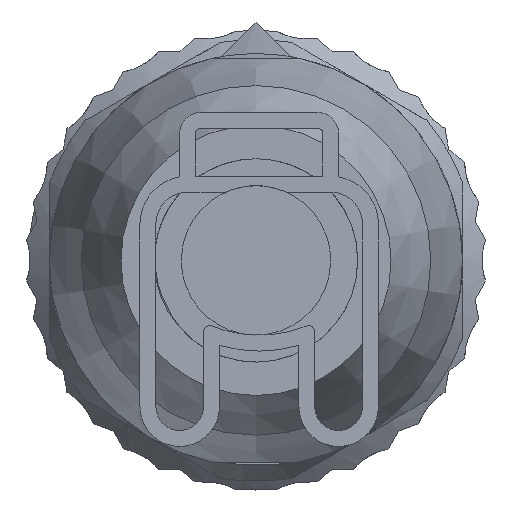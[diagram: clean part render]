
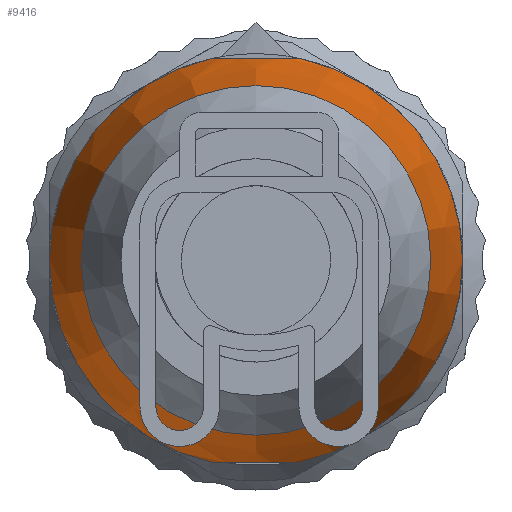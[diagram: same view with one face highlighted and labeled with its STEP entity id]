
A CAD part, front view. The second image highlights one B-rep face of the part: STEP entity #9416.
In plain terms, the highlighted conical face has half-angle 12.095 degrees and reference radius 5.792 mm.
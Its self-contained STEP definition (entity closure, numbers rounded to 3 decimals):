
#8436=CARTESIAN_POINT('',(-0.284,49.622,-5.202));
#8437=VERTEX_POINT('',#8436);
#8438=CARTESIAN_POINT('',(-0.284,49.622,-0.118));
#8439=DIRECTION('',(0.0,1.0,0.0));
#8440=DIRECTION('',(0.0,0.0,-1.0));
#8441=AXIS2_PLACEMENT_3D('',#8438,#8439,#8440);
#8442=CIRCLE('',#8441,5.085);
#8443=EDGE_CURVE('',#8437,#8437,#8442,.T.);
#8773=CARTESIAN_POINT('',(-1.672,56.227,-6.468));
#8774=VERTEX_POINT('',#8773);
#8781=CARTESIAN_POINT('',(-1.672,56.227,6.232));
#8782=VERTEX_POINT('',#8781);
#8783=CARTESIAN_POINT('',(-0.284,56.227,-0.118));
#8784=DIRECTION('',(0.0,1.0,0.0));
#8785=DIRECTION('',(0.0,0.0,-1.0));
#8786=AXIS2_PLACEMENT_3D('',#8783,#8784,#8785);
#8787=CIRCLE('',#8786,6.5);
#8788=EDGE_CURVE('',#8774,#8782,#8787,.T.);
#8807=CARTESIAN_POINT('',(1.105,56.227,6.232));
#8808=VERTEX_POINT('',#8807);
#8815=CARTESIAN_POINT('',(1.105,56.227,-6.468));
#8816=VERTEX_POINT('',#8815);
#8817=CARTESIAN_POINT('',(-0.284,56.227,-0.118));
#8818=DIRECTION('',(0.0,1.0,0.0));
#8819=DIRECTION('',(0.0,0.0,-1.0));
#8820=AXIS2_PLACEMENT_3D('',#8817,#8818,#8819);
#8821=CIRCLE('',#8820,6.5);
#8822=EDGE_CURVE('',#8808,#8816,#8821,.T.);
#9378=CARTESIAN_POINT('',(-0.284,52.924,-0.118));
#9379=DIRECTION('',(0.,1.0,0.));
#9380=DIRECTION('',(0.0,0.0,-1.0));
#9381=AXIS2_PLACEMENT_3D('',#9378,#9379,#9380);
#9382=CONICAL_SURFACE('',#9381,5.792,12.095);
#9383=ORIENTED_EDGE('',*,*,#8443,.T.);
#9384=EDGE_LOOP('',(#9383));
#9385=FACE_OUTER_BOUND('',#9384,.T.);
#9386=CARTESIAN_POINT('',(-1.672,56.227,-6.468));
#9387=CARTESIAN_POINT('',(-0.284,54.843,-6.468));
#9388=CARTESIAN_POINT('',(1.105,56.227,-6.468));
#9396=(BOUNDED_CURVE()B_SPLINE_CURVE(2,(#9386,#9387,#9388),.UNSPECIFIED.,.F.,.U.)B_SPLINE_CURVE_WITH_KNOTS((3,3),(0.0,0.311),.UNSPECIFIED.)CURVE()GEOMETRIC_REPRESENTATION_ITEM()RATIONAL_B_SPLINE_CURVE((1.0,1.024,1.0))REPRESENTATION_ITEM(''));
#9397=EDGE_CURVE('',#8774,#8816,#9396,.T.);
#9398=ORIENTED_EDGE('',*,*,#9397,.T.);
#9399=ORIENTED_EDGE('',*,*,#8822,.F.);
#9400=CARTESIAN_POINT('',(1.105,56.227,6.232));
#9401=CARTESIAN_POINT('',(-0.284,54.843,6.232));
#9402=CARTESIAN_POINT('',(-1.672,56.227,6.232));
#9410=(BOUNDED_CURVE()B_SPLINE_CURVE(2,(#9400,#9401,#9402),.UNSPECIFIED.,.F.,.U.)B_SPLINE_CURVE_WITH_KNOTS((3,3),(0.0,0.311),.UNSPECIFIED.)CURVE()GEOMETRIC_REPRESENTATION_ITEM()RATIONAL_B_SPLINE_CURVE((1.0,1.024,1.0))REPRESENTATION_ITEM(''));
#9411=EDGE_CURVE('',#8808,#8782,#9410,.T.);
#9412=ORIENTED_EDGE('',*,*,#9411,.T.);
#9413=ORIENTED_EDGE('',*,*,#8788,.F.);
#9414=EDGE_LOOP('',(#9398,#9399,#9412,#9413));
#9415=FACE_BOUND('',#9414,.T.);
#9416=ADVANCED_FACE('',(#9385,#9415),#9382,.T.);
